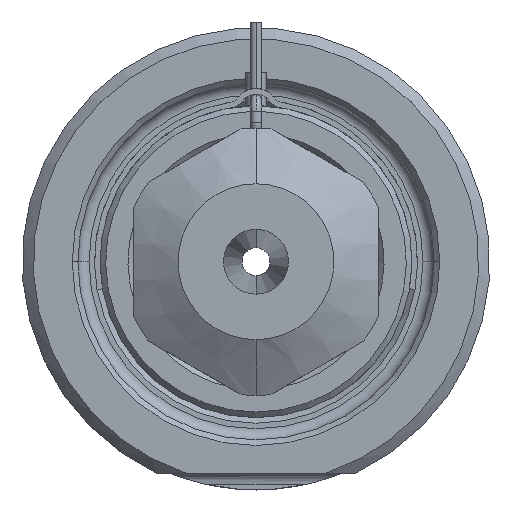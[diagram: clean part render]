
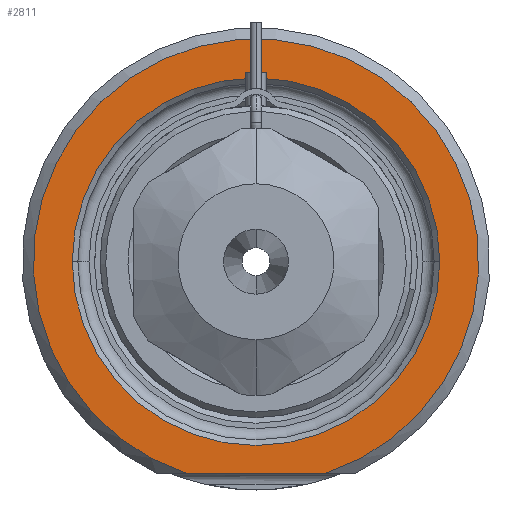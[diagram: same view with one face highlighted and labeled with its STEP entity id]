
A CAD part, front view. The second image highlights one B-rep face of the part: STEP entity #2811.
In plain terms, the highlighted planar face has unit normal (0, -1, 0).
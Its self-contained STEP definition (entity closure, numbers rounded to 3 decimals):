
#1=DIRECTION('',(1.,0.,0.));
#2=VECTOR('',#1,12.49);
#3=CARTESIAN_POINT('',(-6.245,0.,-19.));
#4=LINE('',#3,#2);
#5=CARTESIAN_POINT('',(0.,0.,0.));
#6=DIRECTION('',(0.,1.,0.));
#7=DIRECTION('',(-1.,0.,0.));
#8=AXIS2_PLACEMENT_3D('',#5,#6,#7);
#10=CARTESIAN_POINT('',(0.,0.,0.));
#11=DIRECTION('',(0.,1.,0.));
#12=DIRECTION('',(1.,0.,0.));
#13=AXIS2_PLACEMENT_3D('',#10,#11,#12);
#119=CARTESIAN_POINT('',(0.,0.,0.));
#120=DIRECTION('',(0.,-1.,0.));
#121=DIRECTION('',(0.312,0.,-0.95));
#122=AXIS2_PLACEMENT_3D('',#119,#120,#121);
#2338=CARTESIAN_POINT('',(-16.5,0.,0.));
#2339=CARTESIAN_POINT('',(16.5,0.,0.));
#2340=VERTEX_POINT('',#2338);
#2341=VERTEX_POINT('',#2339);
#2392=CARTESIAN_POINT('',(-6.245,0.,-19.));
#2393=CARTESIAN_POINT('',(6.245,0.,-19.));
#2394=VERTEX_POINT('',#2392);
#2395=VERTEX_POINT('',#2393);
#2794=CARTESIAN_POINT('',(0.,0.,0.));
#2795=DIRECTION('',(0.,-1.,0.));
#2796=DIRECTION('',(1.,0.,0.));
#2797=AXIS2_PLACEMENT_3D('',#2794,#2795,#2796);
#2798=PLANE('',#2797);
#2800=ORIENTED_EDGE('',*,*,#2799,.F.);
#2802=ORIENTED_EDGE('',*,*,#2801,.F.);
#2803=EDGE_LOOP('',(#2800,#2802));
#2804=FACE_OUTER_BOUND('',#2803,.F.);
#2806=ORIENTED_EDGE('',*,*,#2805,.F.);
#2808=ORIENTED_EDGE('',*,*,#2807,.F.);
#2809=EDGE_LOOP('',(#2806,#2808));
#2810=FACE_BOUND('',#2809,.F.);
#2811=ADVANCED_FACE('',(#2804,#2810),#2798,.T.);
#9=CIRCLE('',#8,16.5);
#14=CIRCLE('',#13,16.5);
#123=CIRCLE('',#122,20.);
#2799=EDGE_CURVE('',#2394,#2395,#4,.T.);
#2801=EDGE_CURVE('',#2395,#2394,#123,.T.);
#2805=EDGE_CURVE('',#2340,#2341,#9,.T.);
#2807=EDGE_CURVE('',#2341,#2340,#14,.T.);
